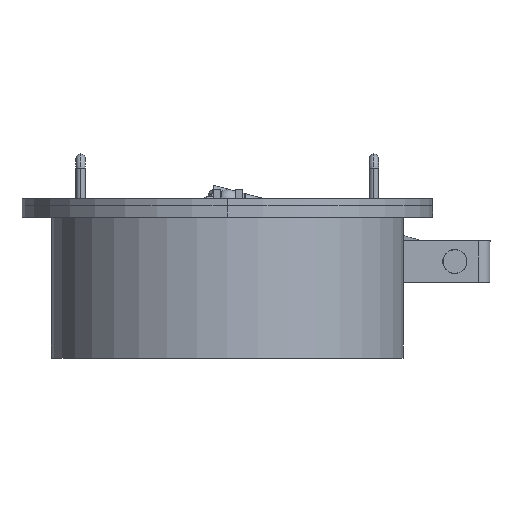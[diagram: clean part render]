
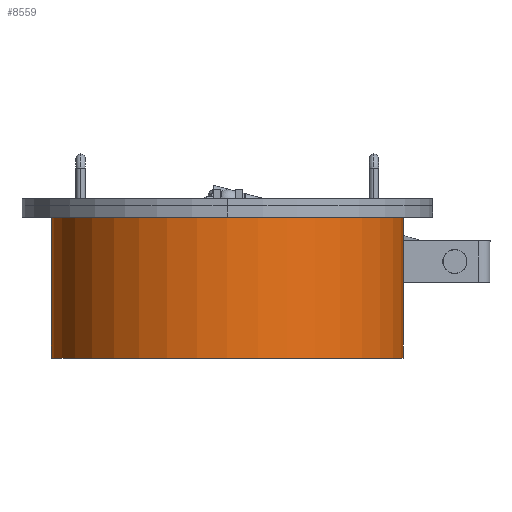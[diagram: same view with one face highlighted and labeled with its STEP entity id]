
A CAD part, front view. The second image highlights one B-rep face of the part: STEP entity #8559.
In plain terms, the highlighted cylindrical face has radius 300 mm (diameter 600 mm), a partial arc.
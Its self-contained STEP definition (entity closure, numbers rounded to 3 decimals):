
#383 = EDGE_CURVE ( 'NONE', #5141, #5758, #4396, .T. ) ;
#449 = CARTESIAN_POINT ( 'NONE',  ( -300., 0., 250. ) ) ;
#776 = ORIENTED_EDGE ( 'NONE', *, *, #813, .T. ) ;
#813 = EDGE_CURVE ( 'NONE', #924, #8428, #2586, .T. ) ;
#924 = VERTEX_POINT ( 'NONE', #449 ) ;
#956 = ORIENTED_EDGE ( 'NONE', *, *, #6129, .T. ) ;
#1134 = CARTESIAN_POINT ( 'NONE',  ( 300., 0., 250. ) ) ;
#1911 = CARTESIAN_POINT ( 'NONE',  ( -300., 0., 0. ) ) ;
#2335 = CYLINDRICAL_SURFACE ( 'NONE', #2925, 300. ) ;
#2379 = VECTOR ( 'NONE', #6665, 1000. ) ;
#2480 = DIRECTION ( 'NONE',  ( 0., 0., 1. ) ) ;
#2586 = LINE ( 'NONE', #7368, #3962 ) ;
#2777 = FACE_OUTER_BOUND ( 'NONE', #4102, .T. ) ;
#2925 = AXIS2_PLACEMENT_3D ( 'NONE', #4755, #5428, #8764 ) ;
#3327 = DIRECTION ( 'NONE',  ( 0., 0., -1. ) ) ;
#3395 = DIRECTION ( 'NONE',  ( 0., 0., 1. ) ) ;
#3528 = ORIENTED_EDGE ( 'NONE', *, *, #5234, .F. ) ;
#3962 = VECTOR ( 'NONE', #3327, 1000. ) ;
#4102 = EDGE_LOOP ( 'NONE', ( #7212, #3528, #776, #956 ) ) ;
#4396 = LINE ( 'NONE', #6003, #2379 ) ;
#4726 = CARTESIAN_POINT ( 'NONE',  ( 300., 0., 0. ) ) ;
#4755 = CARTESIAN_POINT ( 'NONE',  ( 0., 0., 250. ) ) ;
#5141 = VERTEX_POINT ( 'NONE', #1134 ) ;
#5234 = EDGE_CURVE ( 'NONE', #924, #5141, #5861, .T. ) ;
#5428 = DIRECTION ( 'NONE',  ( 0., 0., -1. ) ) ;
#5758 = VERTEX_POINT ( 'NONE', #4726 ) ;
#5861 = CIRCLE ( 'NONE', #5905, 300. ) ;
#5905 = AXIS2_PLACEMENT_3D ( 'NONE', #7448, #3395, #8099 ) ;
#6003 = CARTESIAN_POINT ( 'NONE',  ( 300., 0., 250. ) ) ;
#6129 = EDGE_CURVE ( 'NONE', #8428, #5758, #7331, .T. ) ;
#6530 = CARTESIAN_POINT ( 'NONE',  ( 0., 0., 0. ) ) ;
#6665 = DIRECTION ( 'NONE',  ( 0., 0., -1. ) ) ;
#7031 = AXIS2_PLACEMENT_3D ( 'NONE', #6530, #2480, #7195 ) ;
#7195 = DIRECTION ( 'NONE',  ( 1., 0., 0. ) ) ;
#7212 = ORIENTED_EDGE ( 'NONE', *, *, #383, .F. ) ;
#7331 = CIRCLE ( 'NONE', #7031, 300. ) ;
#7368 = CARTESIAN_POINT ( 'NONE',  ( -300., 0., 250. ) ) ;
#7448 = CARTESIAN_POINT ( 'NONE',  ( 0., 0., 250. ) ) ;
#8099 = DIRECTION ( 'NONE',  ( 1., 0., 0. ) ) ;
#8428 = VERTEX_POINT ( 'NONE', #1911 ) ;
#8559 = ADVANCED_FACE ( 'NONE', ( #2777 ), #2335, .T. ) ;
#8764 = DIRECTION ( 'NONE',  ( -1., 0., 0. ) ) ;
